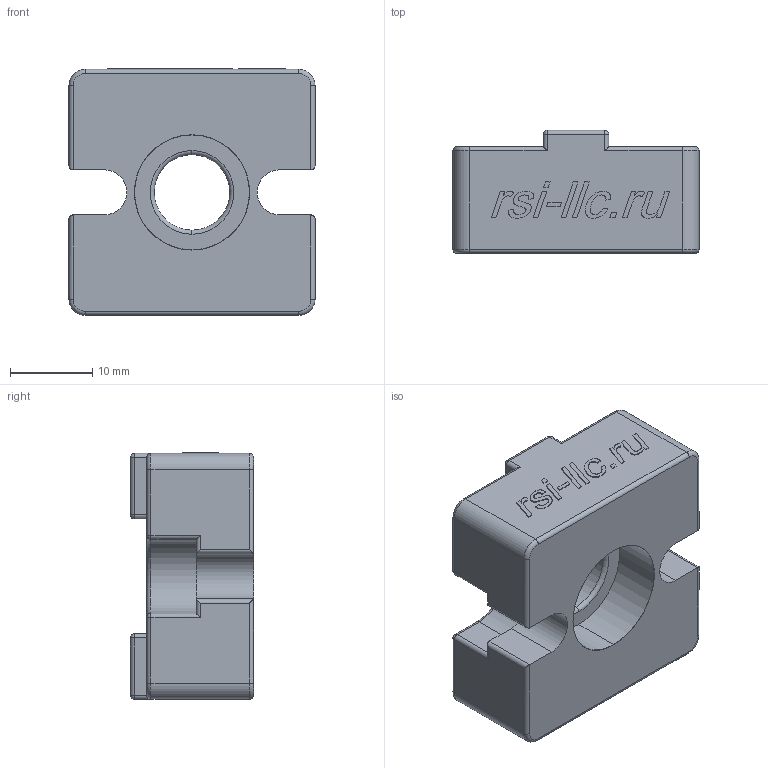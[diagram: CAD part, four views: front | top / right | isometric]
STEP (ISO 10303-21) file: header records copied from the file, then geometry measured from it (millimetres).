
FILE_DESCRIPTION (( 'STEP AP214' ), '1' );
FILE_NAME ('312.0100A.01.STEP', '2020-12-28T13:38:59', ( '' ), ( '' ), 'SwSTEP 2.0', 'SolidWorks 2020', '' );
FILE_SCHEMA (( 'AUTOMOTIVE_DESIGN' ));
Length unit declared in the file: millimetre
Products named in the file (1): 312.0100A.01
Bounding box: 30 x 15 x 30.1 mm (x, y, z)
Volume: 9160.1 mm3; surface area: 3931.4 mm2
Topology: 12 solids, 12 shells, 216 faces, 509 edges, 306 vertices
Faces by surface type: plane 100, cylinder 58, bspline 32, torus 12, sphere 12, cone 2
Entity records: 10246 total; most frequent: CARTESIAN_POINT 3052, ORIENTED_EDGE 994, DIRECTION 887, EDGE_CURVE 497, LINE 317, VECTOR 317, VERTEX_POINT 306, AXIS2_PLACEMENT_3D 285
